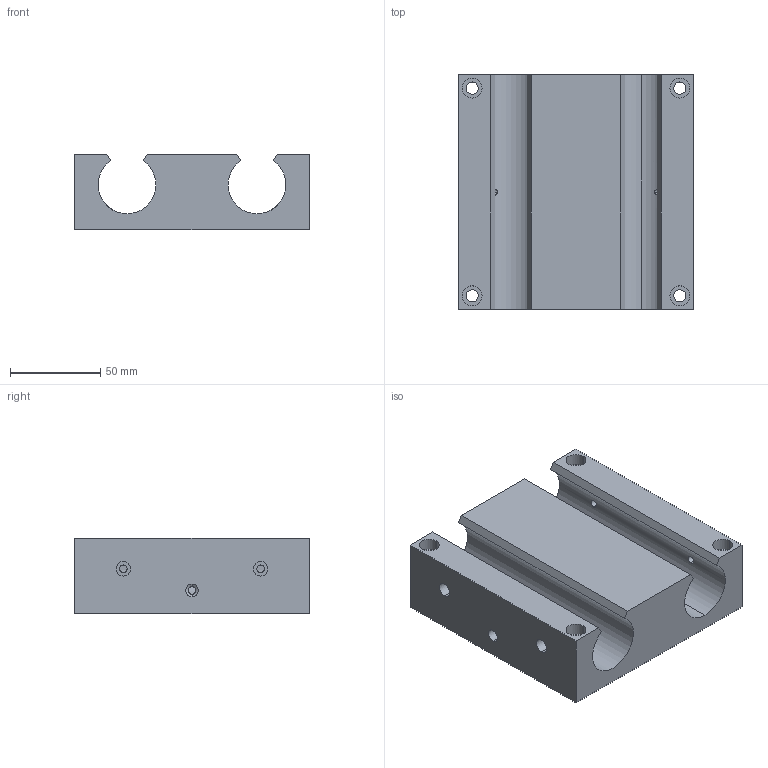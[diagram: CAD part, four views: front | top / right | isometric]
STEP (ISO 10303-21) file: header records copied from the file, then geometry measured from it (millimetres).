
FILE_DESCRIPTION (( 'STEP AP214' ), '1' );
FILE_NAME ('KQSO-20.step', '2020-03-04T13:35:57', ( '' ), ( '' ), 'SwSTEP 2.0', 'SolidWorks 2019', '' );
FILE_SCHEMA (( 'AUTOMOTIVE_DESIGN' ));
Length unit declared in the file: millimetre
Products named in the file (1): KQSO-20
Bounding box: 130 x 130 x 42 mm (x, y, z)
Volume: 479205.4 mm3; surface area: 75057.9 mm2
Topology: 1 solids, 1 shells, 73 faces, 177 edges, 113 vertices
Faces by surface type: cylinder 45, plane 20, cone 8
Entity records: 2737 total; most frequent: CARTESIAN_POINT 688, DIRECTION 391, ORIENTED_EDGE 350, EDGE_CURVE 175, AXIS2_PLACEMENT_3D 154, VERTEX_POINT 113, EDGE_LOOP 102, VECTOR 83
